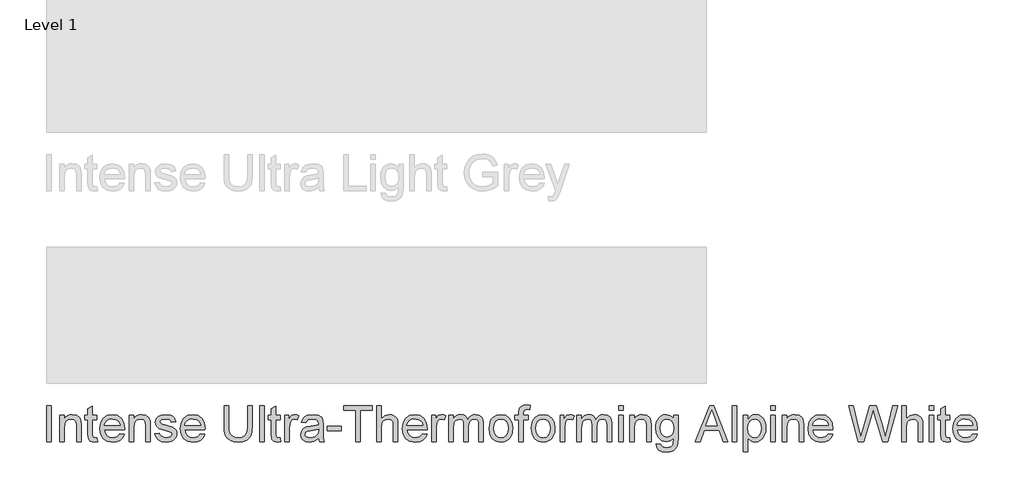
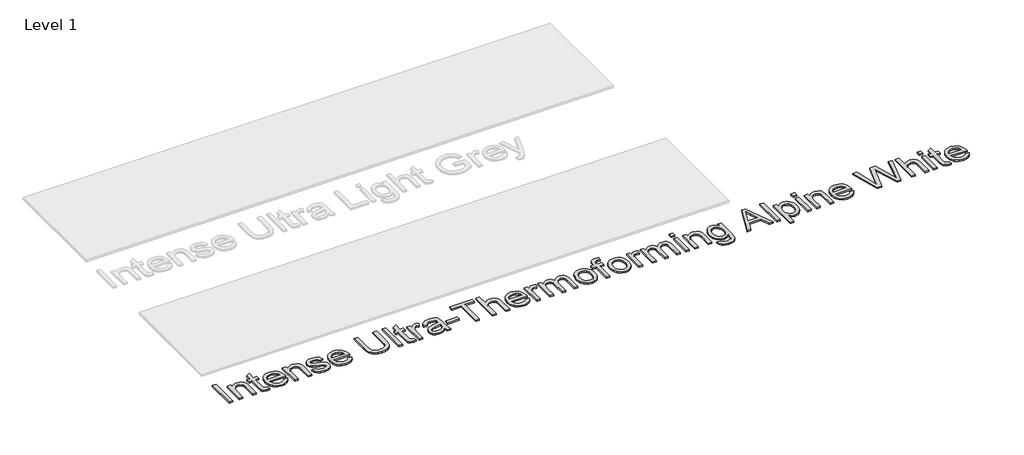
# One storey, part 2 of 4: 1 proxy.
"""IFC4 building model written with IfcOpenShell, lengths in millimetres."""

from ifc_helpers import new_model, si_unit, origin, origin_with_axes, place, context, project, spatial, polyline, outline, extrude, element, save

model = new_model("IFC4")

# Units and contexts
model_context = context("Model", 3, world=origin())
ifc_project = project(units=[si_unit("LENGTHUNIT", "METRE", prefix="MILLI")], contexts=[model_context])

# Site, building, storey
site = spatial("IfcSite", under=ifc_project)
building = spatial("IfcBuilding", under=site)
storey = spatial("IfcBuildingStorey", under=building, Name="Level 1", Elevation=0.0)

# Proxy
placement = place(None, origin())
element("IfcBuildingElementProxy", 1, Name="600mm Arial", ObjectType="600mm Arial", at=placement, inside=storey, context=model_context, shape_type="SweptSolid", body=[
    extrude(outline(polyline([(-21940.2601718, -149824.4754206), (-21940.2601718, -149623.5628003), (-21915.1460943, -149623.5628003), (-21915.1460943, -149824.4754206), (-21940.2601718, -149824.4754206)])), origin_with_axes(), (0.0, 0.0, 1.0), 10.0),
    extrude(outline(polyline([(-21868.0571989, -149824.4754206), (-21868.0571989, -149676.930215), (-21842.9431214, -149676.930215), (-21842.9431214, -149697.5316068), (-21834.2181867, -149687.1450718), (-21823.7396812, -149679.7261182), (-21811.5076049, -149675.2747461), (-21797.5219577, -149673.7909553), (-21773.8058317, -149678.5734213), (-21757.619024, -149691.1304601), (-21750.0897058, -149709.5981362), (-21748.7653306, -149733.8783479), (-21748.7653306, -149824.4754206), (-21773.8794081, -149824.4754206), (-21773.8794081, -149737.2628622), (-21776.7734132, -149715.0427897), (-21787.0005326, -149703.2950914), (-21804.2419355, -149698.9050329), (-21818.9510839, -149701.3698423), (-21831.4897286, -149708.7642704), (-21840.0797732, -149723.0503545), (-21842.9431214, -149746.190132), (-21842.9431214, -149824.4754206), (-21868.0571989, -149824.4754206)])), origin_with_axes(), (0.0, 0.0, 1.0), 10.0),
    extrude(outline(polyline([(-21660.8660592, -149803.5306723), (-21657.7267995, -149825.2111846), (-21676.5133068, -149827.6146803), (-21697.5561569, -149823.445351), (-21708.0530565, -149812.506993), (-21711.0942143, -149784.0084011), (-21711.0942143, -149702.0442926), (-21729.9297725, -149702.0442926), (-21729.9297725, -149676.930215), (-21711.0942143, -149676.930215), (-21711.0942143, -149641.0739832), (-21685.9801368, -149626.3096525), (-21685.9801368, -149676.930215), (-21660.8660592, -149676.930215), (-21660.8660592, -149702.0442926), (-21685.9801368, -149702.0442926), (-21685.9801368, -149783.2726371), (-21684.6557616, -149796.2220833), (-21680.363805, -149800.8083455), (-21671.8044172, -149802.5006027), (-21660.8660592, -149803.5306723)])), origin_with_axes(), (0.0, 0.0, 1.0), 10.0),
    extrude(outline(polyline([(-21532.4507174, -149780.5257849), (-21507.8271492, -149783.6650446), (-21516.6992367, -149802.2185599), (-21530.8565621, -149816.0877111), (-21549.9802945, -149824.732938), (-21573.7516028, -149827.6146803), (-21603.2189506, -149822.642142), (-21625.8927442, -149807.7245271), (-21640.3505066, -149783.8305915), (-21645.1697608, -149751.9290911), (-21640.3014557, -149718.9546016), (-21625.6965405, -149694.2942452), (-21603.3293152, -149678.9167778), (-21575.1740798, -149673.7909553), (-21547.8956299, -149678.9045151), (-21526.0986217, -149694.2451943), (-21511.8064061, -149718.8564998), (-21507.0423343, -149751.7819383), (-21507.1894871, -149758.550967), (-21620.0556832, -149758.550967), (-21615.7085443, -149777.349737), (-21605.6101835, -149791.1698373), (-21591.0359252, -149799.6679114), (-21573.2610934, -149802.5006027), (-21548.6375252, -149797.2521529), (-21539.4895263, -149790.446336), (-21532.4507174, -149780.5257849)]), holes=[polyline([(-21620.0556832, -149733.4368895), (-21532.1564118, -149733.4368895), (-21535.5531889, -149720.1686122), (-21542.211853, -149710.6772567), (-21556.8535565, -149701.8480888), (-21575.2721817, -149698.9050329), (-21592.2008848, -149701.2533463), (-21606.1987947, -149708.2982865), (-21615.9292735, -149719.2795641), (-21620.0556832, -149733.4368895)])]), origin_with_axes(), (0.0, 0.0, 1.0), 10.0),
    extrude(outline(polyline([(-21481.9282568, -149824.4754206), (-21481.9282568, -149676.930215), (-21456.8141792, -149676.930215), (-21456.8141792, -149697.5316068), (-21448.0892446, -149687.1450718), (-21437.6107391, -149679.7261182), (-21425.3786627, -149675.2747461), (-21411.3930156, -149673.7909553), (-21387.6768896, -149678.5734213), (-21371.4900818, -149691.1304601), (-21363.9607637, -149709.5981362), (-21362.6363885, -149733.8783479), (-21362.6363885, -149824.4754206), (-21387.750466, -149824.4754206), (-21387.750466, -149737.2628622), (-21390.644471, -149715.0427897), (-21400.8715905, -149703.2950914), (-21418.1129933, -149698.9050329), (-21432.8221418, -149701.3698423), (-21445.3607865, -149708.7642704), (-21453.950831, -149723.0503545), (-21456.8141792, -149746.190132), (-21456.8141792, -149824.4754206), (-21481.9282568, -149824.4754206)])), origin_with_axes(), (0.0, 0.0, 1.0), 10.0),
    extrude(outline(polyline([(-21337.5223109, -149780.5257849), (-21312.4082334, -149777.3865252), (-21308.4473706, -149788.1286794), (-21300.7831623, -149796.0258796), (-21289.3665578, -149800.8819219), (-21274.1485059, -149802.5006027), (-21259.114395, -149801.016812), (-21248.543919, -149796.5654399), (-21242.2899251, -149790.1152422), (-21240.2052605, -149782.634975), (-21242.3021878, -149776.2338283), (-21248.59297, -149771.3532605), (-21274.4428115, -149764.1918243), (-21312.2610806, -149751.9045657), (-21321.8321438, -149745.7302795), (-21328.7667194, -149737.5571678), (-21334.3830512, -149717.2991326), (-21329.8703654, -149698.5862018), (-21317.5585813, -149684.2878549), (-21301.5925027, -149676.8566386), (-21279.9855669, -149673.7909553), (-21249.4268358, -149678.7205741), (-21237.9979685, -149684.5208469), (-21230.0026665, -149692.0624278), (-21221.3697023, -149714.6013313), (-21246.4837799, -149717.740591), (-21249.6536964, -149709.8372595), (-21255.9260844, -149703.8837026), (-21278.0235296, -149698.9050329), (-21292.4445038, -149700.094518), (-21302.0584866, -149703.6629734), (-21307.4663519, -149708.8133213), (-21309.2689737, -149714.7484841), (-21306.2768668, -149722.0570731), (-21296.9081387, -149727.5998285), (-21275.2766773, -149732.9463802), (-21238.4149014, -149744.767655), (-21221.2961259, -149758.1585596), (-21216.6424187, -149768.0055343), (-21215.0911829, -149779.9862246), (-21216.9121988, -149792.3715851), (-21222.3752464, -149804.0211816), (-21231.2718594, -149814.0214405), (-21243.3935711, -149821.4587882), (-21258.0352745, -149826.0757073), (-21274.4918624, -149827.6146803), (-21299.8144064, -149824.6470988), (-21318.2943453, -149815.7443546), (-21330.6306549, -149801.0045493), (-21337.5223109, -149780.5257849)])), origin_with_axes(), (0.0, 0.0, 1.0), 10.0),
    extrude(outline(polyline([(-21083.5365815, -149780.5257849), (-21058.9130133, -149783.6650446), (-21067.7851007, -149802.2185599), (-21081.9424261, -149816.0877111), (-21101.0661585, -149824.732938), (-21124.8374668, -149827.6146803), (-21154.3048146, -149822.642142), (-21176.9786082, -149807.7245271), (-21191.4363706, -149783.8305915), (-21196.2556248, -149751.9290911), (-21191.3873197, -149718.9546016), (-21176.7824045, -149694.2942452), (-21154.4151792, -149678.9167778), (-21126.2599438, -149673.7909553), (-21098.9814939, -149678.9045151), (-21077.1844857, -149694.2451943), (-21062.8922702, -149718.8564998), (-21058.1281983, -149751.7819383), (-21058.2753511, -149758.550967), (-21171.1415472, -149758.550967), (-21166.7944083, -149777.349737), (-21156.6960476, -149791.1698373), (-21142.1217892, -149799.6679114), (-21124.3469575, -149802.5006027), (-21099.7233892, -149797.2521529), (-21090.5753903, -149790.446336), (-21083.5365815, -149780.5257849)]), holes=[polyline([(-21171.1415472, -149733.4368895), (-21083.2422759, -149733.4368895), (-21086.639053, -149720.1686122), (-21093.2977171, -149710.6772567), (-21107.9394205, -149701.8480888), (-21126.3580457, -149698.9050329), (-21143.2867488, -149701.2533463), (-21157.2846588, -149708.2982865), (-21167.0151375, -149719.2795641), (-21171.1415472, -149733.4368895)])]), origin_with_axes(), (0.0, 0.0, 1.0), 10.0),
    extrude(outline(polyline([(-20819.5444617, -149623.5628003), (-20794.4303842, -149623.5628003), (-20794.4303842, -149739.4701542), (-20796.1349041, -149766.6137141), (-20801.2484638, -149787.5155428), (-20810.801133, -149803.6410369), (-20825.8229811, -149816.4555931), (-20846.3507964, -149824.8249085), (-20872.4213672, -149827.6146803), (-20897.9217208, -149825.1866591), (-20918.3085147, -149817.9025956), (-20933.5878802, -149806.0138758), (-20943.7659488, -149789.7718857), (-20949.4865138, -149767.9871402), (-20951.3933688, -149739.4701542), (-20951.3933688, -149623.5628003), (-20926.2792913, -149623.5628003), (-20926.2792913, -149738.5872374), (-20925.0407552, -149761.1567978), (-20921.3251471, -149776.8714904), (-20914.5929065, -149787.7546661), (-20904.3044734, -149795.8296759), (-20890.8890433, -149800.832871), (-20874.7758119, -149802.5006027), (-20849.2325387, -149799.2019275), (-20832.2486533, -149789.3059018), (-20822.7205096, -149770.0288853), (-20819.5444617, -149738.5872374), (-20819.5444617, -149623.5628003)])), origin_with_axes(), (0.0, 0.0, 1.0), 10.0),
    extrude(outline(polyline([(-20753.6200082, -149824.4754206), (-20753.6200082, -149623.5628003), (-20728.5059306, -149623.5628003), (-20728.5059306, -149824.4754206), (-20753.6200082, -149824.4754206)])), origin_with_axes(), (0.0, 0.0, 1.0), 10.0),
    extrude(outline(polyline([(-20637.4673996, -149803.5306723), (-20634.3281399, -149825.2111846), (-20653.1146471, -149827.6146803), (-20674.1574972, -149823.445351), (-20684.6543968, -149812.506993), (-20687.6955547, -149784.0084011), (-20687.6955547, -149702.0442926), (-20706.5311128, -149702.0442926), (-20706.5311128, -149676.930215), (-20687.6955547, -149676.930215), (-20687.6955547, -149641.0739832), (-20662.5814771, -149626.3096525), (-20662.5814771, -149676.930215), (-20637.4673996, -149676.930215), (-20637.4673996, -149702.0442926), (-20662.5814771, -149702.0442926), (-20662.5814771, -149783.2726371), (-20661.2571019, -149796.2220833), (-20656.9651453, -149800.8083455), (-20648.4057576, -149802.5006027), (-20637.4673996, -149803.5306723)])), origin_with_axes(), (0.0, 0.0, 1.0), 10.0),
    extrude(outline(polyline([(-20612.353322, -149824.4754206), (-20612.353322, -149676.930215), (-20590.3785042, -149676.930215), (-20590.3785042, -149698.7578801), (-20574.7803076, -149678.6469977), (-20559.0840091, -149673.7909553), (-20546.5760213, -149675.7284672), (-20533.8718297, -149681.5410027), (-20542.2595392, -149704.0553808), (-20559.917875, -149698.9050329), (-20574.11812, -149703.8591771), (-20583.1680171, -149717.5934382), (-20587.2392445, -149746.925896), (-20587.2392445, -149824.4754206), (-20612.353322, -149824.4754206)])), origin_with_axes(), (0.0, 0.0, 1.0), 10.0),
    extrude(outline(polyline([(-20423.9977405, -149805.6398624), (-20448.3515286, -149822.6605361), (-20475.2559652, -149827.6146803), (-20496.243633, -149824.6348361), (-20511.7253336, -149815.6953036), (-20521.2718714, -149802.120458), (-20524.4540507, -149785.2346744), (-20519.6470593, -149765.3690467), (-20507.0164441, -149750.9480725), (-20489.4316847, -149742.7075158), (-20467.7021215, -149738.930594), (-20424.1448933, -149730.2976298), (-20423.9977405, -149724.7058235), (-20425.7267859, -149713.4976854), (-20430.913922, -149706.1645709), (-20442.5144676, -149700.7199174), (-20458.6767499, -149698.9050329), (-20473.6372844, -149700.1129121), (-20484.0851331, -149703.7365498), (-20491.209781, -149710.4381334), (-20496.2007134, -149720.8798507), (-20521.314791, -149717.740591), (-20510.4500094, -149693.2151247), (-20501.1916458, -149684.9623053), (-20488.5732934, -149678.8432014), (-20455.4393884, -149673.7909553), (-20425.0032846, -149678.2545902), (-20407.8109327, -149689.4627283), (-20400.1099363, -149706.5079275), (-20398.883663, -149728.4827453), (-20398.883663, -149759.7281894), (-20397.6083387, -149803.358994), (-20392.6051436, -149824.4754206), (-20417.7192211, -149824.4754206), (-20423.9977405, -149805.6398624)]), holes=[polyline([(-20423.9977405, -149755.4117073), (-20464.5138109, -149763.1127038), (-20486.1207468, -149767.1839312), (-20495.9064078, -149773.8058071), (-20499.3399731, -149783.4688408), (-20497.4699063, -149790.9368453), (-20491.8597059, -149797.0559492), (-20482.6319992, -149801.1394393), (-20469.9094135, -149802.5006027), (-20456.420407, -149800.9984179), (-20444.5010304, -149796.4918635), (-20428.1180189, -149781.9482619), (-20424.1448933, -149762.5240926), (-20423.9977405, -149755.4117073)])]), origin_with_axes(), (0.0, 0.0, 1.0), 10.0),
    extrude(outline(polyline([(-20376.9088451, -149764.8294864), (-20376.9088451, -149739.7154089), (-20298.4273528, -149739.7154089), (-20298.4273528, -149764.8294864), (-20376.9088451, -149764.8294864)])), origin_with_axes(), (0.0, 0.0, 1.0), 10.0),
    extrude(outline(polyline([(-20216.8066008, -149824.4754206), (-20216.8066008, -149648.6768778), (-20282.7310544, -149648.6768778), (-20282.7310544, -149623.5628003), (-20125.7680698, -149623.5628003), (-20125.7680698, -149648.6768778), (-20191.6925233, -149648.6768778), (-20191.6925233, -149824.4754206), (-20216.8066008, -149824.4754206)])), origin_with_axes(), (0.0, 0.0, 1.0), 10.0),
    extrude(outline(polyline([(-20100.6539922, -149824.4754206), (-20100.6539922, -149623.5628003), (-20075.5399147, -149623.5628003), (-20075.5399147, -149697.4335049), (-20055.9563298, -149679.7015927), (-20031.8355337, -149673.7909553), (-20016.6665327, -149675.4035048), (-20003.6312474, -149680.241153), (-19993.3673397, -149687.9237553), (-19986.5124718, -149698.071167), (-19982.6497109, -149712.0138946), (-19981.3621239, -149731.0824447), (-19981.3621239, -149824.4754206), (-20006.4762014, -149824.4754206), (-20006.4762014, -149733.6821442), (-20008.475027, -149717.9613202), (-20014.4715035, -149707.1946405), (-20024.1345372, -149700.9774348), (-20037.1330344, -149698.9050329), (-20057.7099006, -149704.4968392), (-20065.9627201, -149711.0819269), (-20071.4441618, -149719.6535774), (-20075.5399147, -149746.0920301), (-20075.5399147, -149824.4754206), (-20100.6539922, -149824.4754206)])), origin_with_axes(), (0.0, 0.0, 1.0), 10.0),
    extrude(outline(polyline([(-19843.5290031, -149780.5257849), (-19818.9054348, -149783.6650446), (-19827.7775223, -149802.2185599), (-19841.9348477, -149816.0877111), (-19861.0585801, -149824.732938), (-19884.8298884, -149827.6146803), (-19914.2972362, -149822.642142), (-19936.9710298, -149807.7245271), (-19951.4287922, -149783.8305915), (-19956.2480464, -149751.9290911), (-19951.3797413, -149718.9546016), (-19936.7748261, -149694.2942452), (-19914.4076008, -149678.9167778), (-19886.2523654, -149673.7909553), (-19858.9739155, -149678.9045151), (-19837.1769073, -149694.2451943), (-19822.8846918, -149718.8564998), (-19818.1206199, -149751.7819383), (-19818.2677727, -149758.550967), (-19931.1339688, -149758.550967), (-19926.7868299, -149777.349737), (-19916.6884692, -149791.1698373), (-19902.1142108, -149799.6679114), (-19884.3393791, -149802.5006027), (-19859.7158108, -149797.2521529), (-19850.5678119, -149790.446336), (-19843.5290031, -149780.5257849)]), holes=[polyline([(-19931.1339688, -149733.4368895), (-19843.2346975, -149733.4368895), (-19846.6314745, -149720.1686122), (-19853.2901387, -149710.6772567), (-19867.9318421, -149701.8480888), (-19886.3504673, -149698.9050329), (-19903.2791704, -149701.2533463), (-19917.2770804, -149708.2982865), (-19927.0075591, -149719.2795641), (-19931.1339688, -149733.4368895)])]), origin_with_axes(), (0.0, 0.0, 1.0), 10.0),
    extrude(outline(polyline([(-19793.0065424, -149824.4754206), (-19793.0065424, -149676.930215), (-19771.0317245, -149676.930215), (-19771.0317245, -149698.7578801), (-19755.4335279, -149678.6469977), (-19739.7372295, -149673.7909553), (-19727.2292416, -149675.7284672), (-19714.5250501, -149681.5410027), (-19722.9127596, -149704.0553808), (-19740.5710953, -149698.9050329), (-19754.7713403, -149703.8591771), (-19763.8212374, -149717.5934382), (-19767.8924648, -149746.925896), (-19767.8924648, -149824.4754206), (-19793.0065424, -149824.4754206)])), origin_with_axes(), (0.0, 0.0, 1.0), 10.0),
    extrude(outline(polyline([(-19698.8287516, -149824.4754206), (-19698.8287516, -149676.930215), (-19673.7146741, -149676.930215), (-19673.7146741, -149701.2104267), (-19666.1608304, -149690.0574709), (-19656.4487458, -149681.3202735), (-19644.9095139, -149675.6732849), (-19631.8742285, -149673.7909553), (-19617.9069754, -149675.7100731), (-19606.7111, -149681.4674263), (-19598.347916, -149690.6828703), (-19592.878737, -149702.9762603), (-19583.7246067, -149690.2076894), (-19573.2828894, -149681.0872816), (-19561.5535851, -149675.6150369), (-19548.5366939, -149673.7909553), (-19529.6582161, -149676.8259818), (-19515.6970944, -149685.9310612), (-19507.0702616, -149701.3514482), (-19504.1946507, -149723.3323974), (-19504.1946507, -149824.4754206), (-19529.3087282, -149824.4754206), (-19529.3087282, -149734.1236026), (-19531.6386475, -149713.1543288), (-19540.075408, -149702.8291075), (-19554.4228058, -149698.9050329), (-19568.0283082, -149701.4188932), (-19579.1199504, -149708.9604741), (-19586.4959844, -149722.0448104), (-19588.9546624, -149741.1869369), (-19588.9546624, -149824.4754206), (-19614.0687399, -149824.4754206), (-19614.0687399, -149731.3276994), (-19615.5218738, -149717.1274544), (-19619.8812755, -149706.9984368), (-19627.5516151, -149700.9283839), (-19638.9375628, -149698.9050329), (-19657.5278663, -149704.3006355), (-19664.8855062, -149710.9470369), (-19669.8887013, -149720.0950358), (-19673.7146741, -149750.0651557), (-19673.7146741, -149824.4754206), (-19698.8287516, -149824.4754206)])), origin_with_axes(), (0.0, 0.0, 1.0), 10.0),
    extrude(outline(polyline([(-19472.8020538, -149750.7028178), (-19467.369663, -149715.1286289), (-19460.5791745, -149701.3054629), (-19451.0724906, -149690.1249159), (-19430.9370827, -149677.8744455), (-19406.8285493, -149673.7909553), (-19380.4452789, -149678.7634936), (-19359.3717719, -149693.6811086), (-19345.557803, -149717.3665777), (-19340.9531467, -149748.6426786), (-19342.9887604, -149774.0142736), (-19349.0956015, -149793.3280783), (-19359.0958604, -149807.7919721), (-19372.8117275, -149818.6138341), (-19389.1027685, -149825.3644687), (-19406.8285493, -149827.6146803), (-19433.5306508, -149822.6605361), (-19454.5796323, -149807.7981035), (-19468.2464484, -149783.6159936), (-19472.8020538, -149750.7028178)]), holes=[polyline([(-19447.6879762, -149750.6537669), (-19444.7817085, -149773.3827428), (-19436.0629052, -149789.575682), (-19422.9417807, -149799.2693725), (-19406.8285493, -149802.5006027), (-19390.7888943, -149799.2509784), (-19377.6922953, -149789.5021056), (-19368.973492, -149773.0945686), (-19366.0672242, -149749.8689519), (-19368.9918861, -149727.8021636), (-19377.7658717, -149711.8299536), (-19390.8808648, -149702.1362631), (-19406.8285493, -149698.9050329), (-19422.9417807, -149702.1240003), (-19436.0629052, -149711.7809027), (-19444.7817085, -149727.9370537), (-19447.6879762, -149750.6537669)])]), origin_with_axes(), (0.0, 0.0, 1.0), 10.0),
    extrude(outline(polyline([(-19306.4212901, -149824.4754206), (-19306.4212901, -149702.0442926), (-19328.3961079, -149702.0442926), (-19328.3961079, -149676.930215), (-19306.4212901, -149676.930215), (-19306.4212901, -149662.0677824), (-19303.7725397, -149641.1230342), (-19298.7202937, -149632.7721129), (-19290.9211954, -149626.1624997), (-19280.0073628, -149621.8582804), (-19265.6109141, -149620.4235406), (-19242.7041285, -149623.1703928), (-19246.3829485, -149646.7148405), (-19260.8529736, -149645.5376181), (-19276.6718994, -149649.7069474), (-19280.1483843, -149655.6788985), (-19281.3072126, -149665.2560931), (-19281.3072126, -149676.930215), (-19253.0538753, -149676.930215), (-19253.0538753, -149702.0442926), (-19281.3072126, -149702.0442926), (-19281.3072126, -149824.4754206), (-19306.4212901, -149824.4754206)])), origin_with_axes(), (0.0, 0.0, 1.0), 10.0),
    extrude(outline(polyline([(-19237.3575769, -149750.7028178), (-19231.9251861, -149715.1286289), (-19225.1346976, -149701.3054629), (-19215.6280137, -149690.1249159), (-19195.4926058, -149677.8744455), (-19171.3840724, -149673.7909553), (-19145.000802, -149678.7634936), (-19123.927295, -149693.6811086), (-19110.1133261, -149717.3665777), (-19105.5086698, -149748.6426786), (-19107.5442835, -149774.0142736), (-19113.6511246, -149793.3280783), (-19123.6513835, -149807.7919721), (-19137.3672506, -149818.6138341), (-19153.6582916, -149825.3644687), (-19171.3840724, -149827.6146803), (-19198.0861739, -149822.6605361), (-19219.1351554, -149807.7981035), (-19232.8019715, -149783.6159936), (-19237.3575769, -149750.7028178)]), holes=[polyline([(-19212.2434993, -149750.6537669), (-19209.3372316, -149773.3827428), (-19200.6184283, -149789.575682), (-19187.4973038, -149799.2693725), (-19171.3840724, -149802.5006027), (-19155.3444174, -149799.2509784), (-19142.2478184, -149789.5021056), (-19133.5290151, -149773.0945686), (-19130.6227473, -149749.8689519), (-19133.5474092, -149727.8021636), (-19142.3213948, -149711.8299536), (-19155.4363879, -149702.1362631), (-19171.3840724, -149698.9050329), (-19187.4973038, -149702.1240003), (-19200.6184283, -149711.7809027), (-19209.3372316, -149727.9370537), (-19212.2434993, -149750.6537669)])]), origin_with_axes(), (0.0, 0.0, 1.0), 10.0),
    extrude(outline(polyline([(-19077.2553326, -149824.4754206), (-19077.2553326, -149676.930215), (-19055.2805147, -149676.930215), (-19055.2805147, -149698.7578801), (-19039.6823181, -149678.6469977), (-19023.9860197, -149673.7909553), (-19011.4780318, -149675.7284672), (-18998.7738403, -149681.5410027), (-19007.1615498, -149704.0553808), (-19024.8198855, -149698.9050329), (-19039.0201305, -149703.8591771), (-19048.0700276, -149717.5934382), (-19052.141255, -149746.925896), (-19052.141255, -149824.4754206), (-19077.2553326, -149824.4754206)])), origin_with_axes(), (0.0, 0.0, 1.0), 10.0),
    extrude(outline(polyline([(-18983.0775418, -149824.4754206), (-18983.0775418, -149676.930215), (-18957.9634643, -149676.930215), (-18957.9634643, -149701.2104267), (-18950.4096206, -149690.0574709), (-18940.697536, -149681.3202735), (-18929.158304, -149675.6732849), (-18916.1230187, -149673.7909553), (-18902.1557656, -149675.7100731), (-18890.9598902, -149681.4674263), (-18882.5967062, -149690.6828703), (-18877.1275272, -149702.9762603), (-18867.9733969, -149690.2076894), (-18857.5316796, -149681.0872816), (-18845.8023753, -149675.6150369), (-18832.785484, -149673.7909553), (-18813.9070063, -149676.8259818), (-18799.9458846, -149685.9310612), (-18791.3190518, -149701.3514482), (-18788.4434409, -149723.3323974), (-18788.4434409, -149824.4754206), (-18813.5575184, -149824.4754206), (-18813.5575184, -149734.1236026), (-18815.8874377, -149713.1543288), (-18824.3241981, -149702.8291075), (-18838.671596, -149698.9050329), (-18852.2770984, -149701.4188932), (-18863.3687406, -149708.9604741), (-18870.7447746, -149722.0448104), (-18873.2034526, -149741.1869369), (-18873.2034526, -149824.4754206), (-18898.3175301, -149824.4754206), (-18898.3175301, -149731.3276994), (-18899.770664, -149717.1274544), (-18904.1300656, -149706.9984368), (-18911.8004052, -149700.9283839), (-18923.186353, -149698.9050329), (-18941.7766565, -149704.3006355), (-18949.1342964, -149710.9470369), (-18954.1374915, -149720.0950358), (-18957.9634643, -149750.0651557), (-18957.9634643, -149824.4754206), (-18983.0775418, -149824.4754206)])), origin_with_axes(), (0.0, 0.0, 1.0), 10.0),
    extrude(outline(polyline([(-18750.7723246, -149824.4754206), (-18750.7723246, -149676.930215), (-18725.658247, -149676.930215), (-18725.658247, -149824.4754206), (-18750.7723246, -149824.4754206)])), origin_with_axes(), (0.0, 0.0, 1.0), 10.0),
    extrude(outline(polyline([(-18750.7723246, -149648.6768778), (-18750.7723246, -149623.5628003), (-18725.658247, -149623.5628003), (-18725.658247, -149648.6768778), (-18750.7723246, -149648.6768778)])), origin_with_axes(), (0.0, 0.0, 1.0), 10.0),
    extrude(outline(polyline([(-18687.9871307, -149824.4754206), (-18687.9871307, -149676.930215), (-18662.8730532, -149676.930215), (-18662.8730532, -149697.5316068), (-18654.1481185, -149687.1450718), (-18643.669613, -149679.7261182), (-18631.4375367, -149675.2747461), (-18617.4518895, -149673.7909553), (-18593.7357636, -149678.5734213), (-18577.5489558, -149691.1304601), (-18570.0196376, -149709.5981362), (-18568.6952624, -149733.8783479), (-18568.6952624, -149824.4754206), (-18593.80934, -149824.4754206), (-18593.80934, -149737.2628622), (-18596.703345, -149715.0427897), (-18606.9304645, -149703.2950914), (-18624.1718673, -149698.9050329), (-18638.8810157, -149701.3698423), (-18651.4196604, -149708.7642704), (-18660.009705, -149723.0503545), (-18662.8730532, -149746.190132), (-18662.8730532, -149824.4754206), (-18687.9871307, -149824.4754206)])), origin_with_axes(), (0.0, 0.0, 1.0), 10.0),
    extrude(outline(polyline([(-18540.4419252, -149837.0324593), (-18515.3278477, -149840.171719), (-18512.55647, -149848.0198683), (-18507.1853928, -149853.4154709), (-18496.6271796, -149857.6093256), (-18482.8070793, -149859.0072772), (-18468.067274, -149857.4253846), (-18457.1043906, -149852.6797069), (-18449.501496, -149845.0768123), (-18444.8416574, -149834.9232692), (-18443.1248747, -149805.6398624), (-18460.807736, -149819.766531), (-18482.3656209, -149824.4754206), (-18508.258382, -149818.9939788), (-18527.5660554, -149802.5496537), (-18539.5774025, -149778.4411202), (-18543.5811849, -149749.9670538), (-18541.7846945, -149729.6906245), (-18536.3952233, -149711.0451387), (-18527.6028436, -149695.244607), (-18515.5976278, -149683.50304), (-18500.7903775, -149676.2189765), (-18483.5918942, -149673.7909553), (-18461.1878807, -149679.2846598), (-18443.1248747, -149695.7657732), (-18443.1248747, -149676.930215), (-18418.0107972, -149676.930215), (-18418.0107972, -149804.3154872), (-18419.7275799, -149833.7276528), (-18424.8779278, -149853.0966398), (-18433.7500152, -149865.9418528), (-18446.6320164, -149875.7826962), (-18463.2418885, -149882.0366901), (-18483.2975886, -149884.1213547), (-18506.6642267, -149881.1844301), (-18525.0644578, -149872.3736563), (-18536.8673385, -149857.6645079), (-18540.4419252, -149837.0324593)]), holes=[polyline([(-18518.4671074, -149748.2502712), (-18515.7877002, -149771.2858154), (-18507.7494786, -149787.1231353), (-18495.664555, -149796.3017911), (-18480.845042, -149799.361343), (-18466.1358935, -149796.3201852), (-18453.9896563, -149787.1967117), (-18445.8410701, -149771.5617269), (-18443.1248747, -149748.9860352), (-18445.9207779, -149727.2135524), (-18454.3084874, -149711.5356481), (-18466.6325342, -149702.0626867), (-18481.2374494, -149698.9050329), (-18495.5787159, -149702.0136357), (-18507.6023258, -149711.3394443), (-18515.750912, -149726.7843568), (-18518.4671074, -149748.2502712)])]), origin_with_axes(), (0.0, 0.0, 1.0), 10.0),
    extrude(outline(polyline([(-18322.1162238, -149824.4754206), (-18241.9179489, -149623.5628003), (-18220.5317422, -149623.5628003), (-18140.3334672, -149824.4754206), (-18166.8700218, -149824.4754206), (-18189.8749093, -149761.6902267), (-18272.6238327, -149761.6902267), (-18295.5796692, -149824.4754206), (-18322.1162238, -149824.4754206)]), holes=[polyline([(-18263.4022574, -149736.5761492), (-18199.0474337, -149736.5761492), (-18217.1472278, -149687.18186), (-18231.2248455, -149648.6768778), (-18243.7328334, -149682.8653779), (-18263.4022574, -149736.5761492)])]), origin_with_axes(), (0.0, 0.0, 1.0), 10.0),
    extrude(outline(polyline([(-18116.6418668, -149824.4754206), (-18116.6418668, -149623.5628003), (-18091.5277892, -149623.5628003), (-18091.5277892, -149824.4754206), (-18116.6418668, -149824.4754206)])), origin_with_axes(), (0.0, 0.0, 1.0), 10.0),
    extrude(outline(polyline([(-18053.8566729, -149880.982095), (-18053.8566729, -149676.930215), (-18028.7425954, -149676.930215), (-18028.7425954, -149701.5537832), (-18011.3785652, -149680.7316623), (-18000.6854619, -149675.5261321), (-17987.9322194, -149673.7909553), (-17970.9483339, -149676.2189765), (-17956.0981641, -149683.50304), (-17944.0071092, -149695.2016875), (-17935.3005686, -149710.8734605), (-17930.0398561, -149729.3779248), (-17928.2862852, -149749.5746464), (-17930.2667166, -149771.0528235), (-17936.2080109, -149790.262395), (-17945.9200955, -149806.2284736), (-17959.2128983, -149817.976172), (-17974.6945989, -149825.2050532), (-17990.9733772, -149827.6146803), (-18002.5187405, -149826.0021309), (-18012.8255677, -149821.1644826), (-18028.7425954, -149804.8550475), (-18028.7425954, -149880.982095), (-18053.8566729, -149880.982095)]), holes=[polyline([(-18028.7425954, -149751.8800402), (-18026.0264, -149774.3944183), (-18017.8778138, -149790.1397677), (-18005.8542039, -149799.410394), (-17991.5129375, -149802.5006027), (-17976.9386791, -149799.3000294), (-17964.6085009, -149789.6983093), (-17956.2023973, -149773.3766114), (-17953.4003628, -149750.0161047), (-17956.1349523, -149727.624354), (-17964.3387208, -149711.6582754), (-17976.3439365, -149702.0933435), (-17990.4828679, -149698.9050329), (-18004.6769815, -149702.2956786), (-18017.1420498, -149712.4676158), (-18025.842459, -149729.1020133), (-18028.7425954, -149751.8800402)])]), origin_with_axes(), (0.0, 0.0, 1.0), 10.0),
    extrude(outline(polyline([(-17900.032948, -149648.6768778), (-17900.032948, -149623.5628003), (-17874.9188705, -149623.5628003), (-17874.9188705, -149648.6768778), (-17900.032948, -149648.6768778)])), origin_with_axes(), (0.0, 0.0, 1.0), 10.0),
    extrude(outline(polyline([(-17900.032948, -149824.4754206), (-17900.032948, -149676.930215), (-17874.9188705, -149676.930215), (-17874.9188705, -149824.4754206), (-17900.032948, -149824.4754206)])), origin_with_axes(), (0.0, 0.0, 1.0), 10.0),
    extrude(outline(polyline([(-17837.2477542, -149824.4754206), (-17837.2477542, -149676.930215), (-17812.1336766, -149676.930215), (-17812.1336766, -149697.5316068), (-17803.408742, -149687.1450718), (-17792.9302365, -149679.7261182), (-17780.6981601, -149675.2747461), (-17766.7125129, -149673.7909553), (-17742.996387, -149678.5734213), (-17726.8095792, -149691.1304601), (-17719.280261, -149709.5981362), (-17717.9558859, -149733.8783479), (-17717.9558859, -149824.4754206), (-17743.0699634, -149824.4754206), (-17743.0699634, -149737.2628622), (-17745.9639684, -149715.0427897), (-17756.1910879, -149703.2950914), (-17773.4324907, -149698.9050329), (-17788.1416392, -149701.3698423), (-17800.6802838, -149708.7642704), (-17809.2703284, -149723.0503545), (-17812.1336766, -149746.190132), (-17812.1336766, -149824.4754206), (-17837.2477542, -149824.4754206)])), origin_with_axes(), (0.0, 0.0, 1.0), 10.0),
    extrude(outline(polyline([(-17580.122765, -149780.5257849), (-17555.4991968, -149783.6650446), (-17564.3712842, -149802.2185599), (-17578.5286097, -149816.0877111), (-17597.6523421, -149824.732938), (-17621.4236503, -149827.6146803), (-17650.8909981, -149822.642142), (-17673.5647918, -149807.7245271), (-17688.0225542, -149783.8305915), (-17692.8418083, -149751.9290911), (-17687.9735032, -149718.9546016), (-17673.368588, -149694.2942452), (-17651.0013627, -149678.9167778), (-17622.8461274, -149673.7909553), (-17595.5676774, -149678.9045151), (-17573.7706692, -149694.2451943), (-17559.4784537, -149718.8564998), (-17554.7143819, -149751.7819383), (-17554.8615347, -149758.550967), (-17667.7277308, -149758.550967), (-17663.3805919, -149777.349737), (-17653.2822311, -149791.1698373), (-17638.7079727, -149799.6679114), (-17620.933141, -149802.5006027), (-17596.3095728, -149797.2521529), (-17587.1615738, -149790.446336), (-17580.122765, -149780.5257849)]), holes=[polyline([(-17667.7277308, -149733.4368895), (-17579.8284594, -149733.4368895), (-17583.2252365, -149720.1686122), (-17589.8839006, -149710.6772567), (-17604.525604, -149701.8480888), (-17622.9442292, -149698.9050329), (-17639.8729324, -149701.2533463), (-17653.8708423, -149708.2982865), (-17663.6013211, -149719.2795641), (-17667.7277308, -149733.4368895)])]), origin_with_axes(), (0.0, 0.0, 1.0), 10.0),
    extrude(outline(polyline([(-17412.0252187, -149824.4754206), (-17466.8151105, -149623.5628003), (-17440.916218, -149623.5628003), (-17409.1312136, -149755.6079111), (-17399.3210271, -149796.3692361), (-17388.8241275, -149760.3168006), (-17348.9947702, -149623.5628003), (-17311.6670104, -149623.5628003), (-17282.7269601, -149722.6947352), (-17261.1936006, -149796.3692361), (-17251.6777197, -149756.7851335), (-17219.5984097, -149623.5628003), (-17193.6995173, -149623.5628003), (-17248.53846, -149824.4754206), (-17275.3693202, -149824.4754206), (-17323.5373361, -149669.4744733), (-17330.2573139, -149647.843012), (-17337.8111575, -149673.8890572), (-17381.7117423, -149824.4754206), (-17412.0252187, -149824.4754206)])), origin_with_axes(), (0.0, 0.0, 1.0), 10.0),
    extrude(outline(polyline([(-17171.7246994, -149824.4754206), (-17171.7246994, -149623.5628003), (-17146.6106219, -149623.5628003), (-17146.6106219, -149697.4335049), (-17127.027037, -149679.7015927), (-17102.9062409, -149673.7909553), (-17087.7372399, -149675.4035048), (-17074.7019546, -149680.241153), (-17064.4380469, -149687.9237553), (-17057.583179, -149698.071167), (-17053.7204181, -149712.0138946), (-17052.4328311, -149731.0824447), (-17052.4328311, -149824.4754206), (-17077.5469086, -149824.4754206), (-17077.5469086, -149733.6821442), (-17079.5457342, -149717.9613202), (-17085.5422107, -149707.1946405), (-17095.2052444, -149700.9774348), (-17108.2037416, -149698.9050329), (-17128.7806078, -149704.4968392), (-17137.0334273, -149711.0819269), (-17142.514869, -149719.6535774), (-17146.6106219, -149746.0920301), (-17146.6106219, -149824.4754206), (-17171.7246994, -149824.4754206)])), origin_with_axes(), (0.0, 0.0, 1.0), 10.0),
    extrude(outline(polyline([(-17017.9009745, -149648.6768778), (-17017.9009745, -149623.5628003), (-16992.786897, -149623.5628003), (-16992.786897, -149648.6768778), (-17017.9009745, -149648.6768778)])), origin_with_axes(), (0.0, 0.0, 1.0), 10.0),
    extrude(outline(polyline([(-17017.9009745, -149824.4754206), (-17017.9009745, -149676.930215), (-16992.786897, -149676.930215), (-16992.786897, -149824.4754206), (-17017.9009745, -149824.4754206)])), origin_with_axes(), (0.0, 0.0, 1.0), 10.0),
    extrude(outline(polyline([(-16901.7483659, -149803.5306723), (-16898.6091062, -149825.2111846), (-16917.3956134, -149827.6146803), (-16938.4384635, -149823.445351), (-16948.9353631, -149812.506993), (-16951.976521, -149784.0084011), (-16951.976521, -149702.0442926), (-16970.8120791, -149702.0442926), (-16970.8120791, -149676.930215), (-16951.976521, -149676.930215), (-16951.976521, -149641.0739832), (-16926.8624434, -149626.3096525), (-16926.8624434, -149676.930215), (-16901.7483659, -149676.930215), (-16901.7483659, -149702.0442926), (-16926.8624434, -149702.0442926), (-16926.8624434, -149783.2726371), (-16925.5380682, -149796.2220833), (-16921.2461116, -149800.8083455), (-16912.6867239, -149802.5006027), (-16901.7483659, -149803.5306723)])), origin_with_axes(), (0.0, 0.0, 1.0), 10.0),
    extrude(outline(polyline([(-16773.3330241, -149780.5257849), (-16748.7094559, -149783.6650446), (-16757.5815433, -149802.2185599), (-16771.7388688, -149816.0877111), (-16790.8626012, -149824.732938), (-16814.6339094, -149827.6146803), (-16844.1012572, -149822.642142), (-16866.7750509, -149807.7245271), (-16881.2328133, -149783.8305915), (-16886.0520674, -149751.9290911), (-16881.1837624, -149718.9546016), (-16866.5788471, -149694.2942452), (-16844.2116218, -149678.9167778), (-16816.0563865, -149673.7909553), (-16788.7779365, -149678.9045151), (-16766.9809283, -149694.2451943), (-16752.6887128, -149718.8564998), (-16747.924641, -149751.7819383), (-16748.0717938, -149758.550967), (-16860.9379899, -149758.550967), (-16856.590851, -149777.349737), (-16846.4924902, -149791.1698373), (-16831.9182318, -149799.6679114), (-16814.1434001, -149802.5006027), (-16789.5198319, -149797.2521529), (-16780.3718329, -149790.446336), (-16773.3330241, -149780.5257849)]), holes=[polyline([(-16860.9379899, -149733.4368895), (-16773.0387185, -149733.4368895), (-16776.4354956, -149720.1686122), (-16783.0941597, -149710.6772567), (-16797.7358631, -149701.8480888), (-16816.1544883, -149698.9050329), (-16833.0831915, -149701.2533463), (-16847.0811014, -149708.2982865), (-16856.8115802, -149719.2795641), (-16860.9379899, -149733.4368895)])]), origin_with_axes(), (0.0, 0.0, 1.0), 10.0),
])

save(model, "model.ifc")
